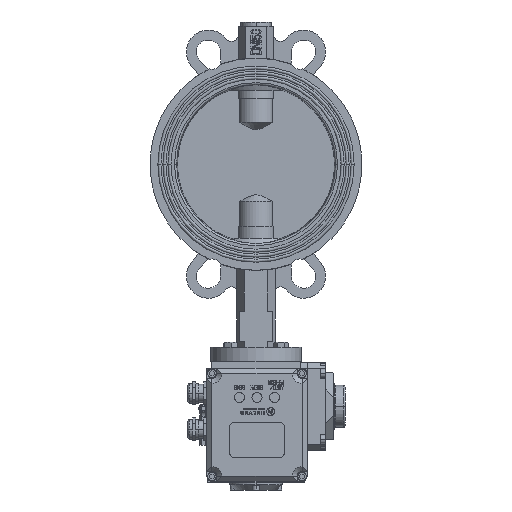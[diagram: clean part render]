
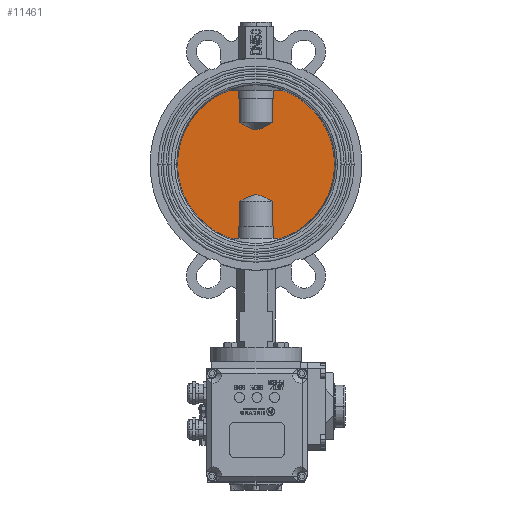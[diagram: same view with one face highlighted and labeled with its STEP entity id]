
A CAD part, front view. The second image highlights one B-rep face of the part: STEP entity #11461.
In plain terms, the highlighted planar face has unit normal (0, -1, 0) as drawn and (0, 1, 0) by its records, which use the part's own axes.
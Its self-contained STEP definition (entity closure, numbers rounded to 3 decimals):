
#10868=DIRECTION('',(0.,0.,-1.));
#10869=VECTOR('',#10868,8.);
#10870=CARTESIAN_POINT('',(17.321,6.5,-66.));
#10871=LINE('',#10870,#10869);
#10872=DIRECTION('',(1.,0.,0.));
#10873=VECTOR('',#10872,8.876);
#10874=CARTESIAN_POINT('',(17.321,6.5,-74.));
#10875=LINE('',#10874,#10873);
#10876=DIRECTION('',(-1.,0.,0.));
#10877=VECTOR('',#10876,8.876);
#10878=CARTESIAN_POINT('',(26.196,6.5,74.));
#10879=LINE('',#10878,#10877);
#10880=DIRECTION('',(0.,0.,-1.));
#10881=VECTOR('',#10880,12.);
#10882=CARTESIAN_POINT('',(17.321,6.5,74.));
#10883=LINE('',#10882,#10881);
#10884=DIRECTION('',(-1.,0.,0.));
#10885=VECTOR('',#10884,1.072);
#10886=CARTESIAN_POINT('',(17.321,6.5,62.));
#10887=LINE('',#10886,#10885);
#10888=DIRECTION('',(0.,0.,-1.));
#10889=VECTOR('',#10888,25.);
#10890=CARTESIAN_POINT('',(16.248,6.5,62.));
#10891=LINE('',#10890,#10889);
#10892=DIRECTION('',(0.,0.,-1.));
#10893=VECTOR('',#10892,25.);
#10894=CARTESIAN_POINT('',(-16.248,6.5,62.));
#10895=LINE('',#10894,#10893);
#10896=DIRECTION('',(-1.,0.,0.));
#10897=VECTOR('',#10896,1.072);
#10898=CARTESIAN_POINT('',(-16.248,6.5,62.));
#10899=LINE('',#10898,#10897);
#10900=DIRECTION('',(0.,0.,-1.));
#10901=VECTOR('',#10900,12.);
#10902=CARTESIAN_POINT('',(-17.321,6.5,74.));
#10903=LINE('',#10902,#10901);
#10904=DIRECTION('',(-1.,0.,0.));
#10905=VECTOR('',#10904,8.876);
#10906=CARTESIAN_POINT('',(-17.321,6.5,74.));
#10907=LINE('',#10906,#10905);
#10908=DIRECTION('',(1.,0.,0.));
#10909=VECTOR('',#10908,8.876);
#10910=CARTESIAN_POINT('',(-26.196,6.5,-74.));
#10911=LINE('',#10910,#10909);
#10912=DIRECTION('',(0.,0.,-1.));
#10913=VECTOR('',#10912,8.);
#10914=CARTESIAN_POINT('',(-17.321,6.5,-66.));
#10915=LINE('',#10914,#10913);
#10916=DIRECTION('',(-1.,0.,0.));
#10917=VECTOR('',#10916,0.535);
#10918=CARTESIAN_POINT('',(-16.785,6.5,-66.));
#10919=LINE('',#10918,#10917);
#10920=DIRECTION('',(0.,0.,-1.));
#10921=VECTOR('',#10920,24.);
#10922=CARTESIAN_POINT('',(-16.785,6.5,-42.));
#10923=LINE('',#10922,#10921);
#10924=DIRECTION('',(0.,0.,-1.));
#10925=VECTOR('',#10924,24.);
#10926=CARTESIAN_POINT('',(16.785,6.5,-42.));
#10927=LINE('',#10926,#10925);
#10928=DIRECTION('',(-1.,0.,0.));
#10929=VECTOR('',#10928,0.535);
#10930=CARTESIAN_POINT('',(17.321,6.5,-66.));
#10931=LINE('',#10930,#10929);
#10941=CARTESIAN_POINT('',(0.,6.5,0.));
#10942=DIRECTION('',(0.,1.,0.));
#10943=DIRECTION('',(0.334,0.,0.943));
#10944=AXIS2_PLACEMENT_3D('',#10941,#10942,#10943);
#10950=CARTESIAN_POINT('',(0.,6.5,0.));
#10951=DIRECTION('',(0.,1.,0.));
#10952=DIRECTION('',(-0.334,0.,-0.943));
#10953=AXIS2_PLACEMENT_3D('',#10950,#10951,#10952);
#11053=CARTESIAN_POINT('',(-16.248,6.5,37.));
#11054=CARTESIAN_POINT('',(-15.344,6.5,36.52));
#11055=CARTESIAN_POINT('',(-13.609,6.5,35.611));
#11056=CARTESIAN_POINT('',(-11.222,6.5,34.401));
#11057=CARTESIAN_POINT('',(-9.038,6.5,33.349));
#11058=CARTESIAN_POINT('',(-7.05,6.5,32.463));
#11059=CARTESIAN_POINT('',(-5.244,6.5,31.752));
#11060=CARTESIAN_POINT('',(-3.627,6.5,31.23));
#11061=CARTESIAN_POINT('',(-2.148,6.5,30.886));
#11062=CARTESIAN_POINT('',(-0.714,6.5,30.707));
#11063=CARTESIAN_POINT('',(0.715,6.5,30.707));
#11064=CARTESIAN_POINT('',(2.149,6.5,30.886));
#11065=CARTESIAN_POINT('',(3.628,6.5,31.231));
#11066=CARTESIAN_POINT('',(5.245,6.5,31.753));
#11067=CARTESIAN_POINT('',(7.051,6.5,32.463));
#11068=CARTESIAN_POINT('',(9.038,6.5,33.349));
#11069=CARTESIAN_POINT('',(11.222,6.5,34.401));
#11070=CARTESIAN_POINT('',(13.609,6.5,35.611));
#11071=CARTESIAN_POINT('',(15.344,6.5,36.521));
#11072=CARTESIAN_POINT('',(16.248,6.5,37.));
#11158=CARTESIAN_POINT('',(16.785,6.5,-42.));
#11159=CARTESIAN_POINT('',(15.851,6.5,-41.419));
#11160=CARTESIAN_POINT('',(14.058,6.5,-40.317));
#11161=CARTESIAN_POINT('',(11.595,6.5,-38.851));
#11162=CARTESIAN_POINT('',(9.342,6.5,-37.572));
#11163=CARTESIAN_POINT('',(7.287,6.5,-36.49));
#11164=CARTESIAN_POINT('',(5.416,6.5,-35.616));
#11165=CARTESIAN_POINT('',(3.729,6.5,-34.967));
#11166=CARTESIAN_POINT('',(2.195,6.5,-34.541));
#11167=CARTESIAN_POINT('',(0.726,6.5,-34.324));
#11168=CARTESIAN_POINT('',(-0.731,6.5,-34.325));
#11169=CARTESIAN_POINT('',(-2.2,6.5,-34.542));
#11170=CARTESIAN_POINT('',(-3.733,6.5,-34.969));
#11171=CARTESIAN_POINT('',(-5.419,6.5,-35.617));
#11172=CARTESIAN_POINT('',(-7.29,6.5,-36.492));
#11173=CARTESIAN_POINT('',(-9.344,6.5,-37.574));
#11174=CARTESIAN_POINT('',(-11.597,6.5,-38.852));
#11175=CARTESIAN_POINT('',(-14.059,6.5,-40.318));
#11176=CARTESIAN_POINT('',(-15.852,6.5,-41.419));
#11177=CARTESIAN_POINT('',(-16.785,6.5,-42.));
#11203=CARTESIAN_POINT('',(26.196,6.5,-74.));
#11205=VERTEX_POINT('',#11203);
#11207=CARTESIAN_POINT('',(-26.196,6.5,-74.));
#11209=VERTEX_POINT('',#11207);
#11211=CARTESIAN_POINT('',(-26.196,6.5,74.));
#11213=VERTEX_POINT('',#11211);
#11215=CARTESIAN_POINT('',(26.196,6.5,74.));
#11217=VERTEX_POINT('',#11215);
#11234=CARTESIAN_POINT('',(16.248,6.5,62.));
#11235=CARTESIAN_POINT('',(16.248,6.5,37.));
#11236=VERTEX_POINT('',#11234);
#11237=VERTEX_POINT('',#11235);
#11238=CARTESIAN_POINT('',(17.321,6.5,62.));
#11239=VERTEX_POINT('',#11238);
#11240=CARTESIAN_POINT('',(-16.248,6.5,62.));
#11241=CARTESIAN_POINT('',(-17.321,6.5,62.));
#11242=VERTEX_POINT('',#11240);
#11243=VERTEX_POINT('',#11241);
#11244=CARTESIAN_POINT('',(17.321,6.5,74.));
#11245=VERTEX_POINT('',#11244);
#11246=CARTESIAN_POINT('',(-16.248,6.5,37.));
#11247=VERTEX_POINT('',#11246);
#11248=CARTESIAN_POINT('',(-17.321,6.5,74.));
#11249=VERTEX_POINT('',#11248);
#11266=CARTESIAN_POINT('',(17.321,6.5,-66.));
#11267=CARTESIAN_POINT('',(17.321,6.5,-74.));
#11268=VERTEX_POINT('',#11266);
#11269=VERTEX_POINT('',#11267);
#11270=CARTESIAN_POINT('',(16.785,6.5,-66.));
#11271=VERTEX_POINT('',#11270);
#11272=CARTESIAN_POINT('',(-16.785,6.5,-66.));
#11273=CARTESIAN_POINT('',(-17.321,6.5,-66.));
#11274=VERTEX_POINT('',#11272);
#11275=VERTEX_POINT('',#11273);
#11276=CARTESIAN_POINT('',(16.785,6.5,-42.));
#11277=VERTEX_POINT('',#11276);
#11278=CARTESIAN_POINT('',(-17.321,6.5,-74.));
#11279=VERTEX_POINT('',#11278);
#11280=CARTESIAN_POINT('',(-16.785,6.5,-42.));
#11281=VERTEX_POINT('',#11280);
#11418=CARTESIAN_POINT('',(0.,6.5,0.));
#11419=DIRECTION('',(0.,1.,0.));
#11420=DIRECTION('',(1.,0.,0.));
#11421=AXIS2_PLACEMENT_3D('',#11418,#11419,#11420);
#11422=PLANE('',#11421);
#11423=ORIENTED_EDGE('',*,*,#11387,.T.);
#11424=ORIENTED_EDGE('',*,*,#11397,.T.);
#11426=ORIENTED_EDGE('',*,*,#11425,.F.);
#11428=ORIENTED_EDGE('',*,*,#11427,.T.);
#11430=ORIENTED_EDGE('',*,*,#11429,.T.);
#11432=ORIENTED_EDGE('',*,*,#11431,.T.);
#11434=ORIENTED_EDGE('',*,*,#11433,.T.);
#11436=ORIENTED_EDGE('',*,*,#11435,.F.);
#11438=ORIENTED_EDGE('',*,*,#11437,.F.);
#11440=ORIENTED_EDGE('',*,*,#11439,.T.);
#11442=ORIENTED_EDGE('',*,*,#11441,.F.);
#11444=ORIENTED_EDGE('',*,*,#11443,.T.);
#11446=ORIENTED_EDGE('',*,*,#11445,.F.);
#11447=ORIENTED_EDGE('',*,*,#11400,.T.);
#11448=ORIENTED_EDGE('',*,*,#11383,.F.);
#11450=ORIENTED_EDGE('',*,*,#11449,.F.);
#11452=ORIENTED_EDGE('',*,*,#11451,.F.);
#11454=ORIENTED_EDGE('',*,*,#11453,.F.);
#11456=ORIENTED_EDGE('',*,*,#11455,.T.);
#11458=ORIENTED_EDGE('',*,*,#11457,.F.);
#11459=EDGE_LOOP('',(#11423,#11424,#11426,#11428,#11430,#11432,#11434,#11436,
#11438,#11440,#11442,#11444,#11446,#11447,#11448,#11450,#11452,#11454,#11456,
#11458));
#11460=FACE_OUTER_BOUND('',#11459,.F.);
#11461=ADVANCED_FACE('',(#11460),#11422,.T.);
#10945=CIRCLE('',#10944,78.5);
#10954=CIRCLE('',#10953,78.5);
#11073=B_SPLINE_CURVE_WITH_KNOTS('',3,(#11053,#11054,#11055,#11056,#11057,
#11058,#11059,#11060,#11061,#11062,#11063,#11064,#11065,#11066,#11067,#11068,
#11069,#11070,#11071,#11072),.UNSPECIFIED.,.F.,.F.,(4,1,1,1,1,1,1,1,1,1,1,1,1,1,
1,1,1,4),(0.,0.059,0.118,0.176,
0.235,0.294,0.353,0.412,
0.471,0.529,0.588,0.647,
0.706,0.765,0.824,0.882,
0.941,1.),.UNSPECIFIED.);
#11178=B_SPLINE_CURVE_WITH_KNOTS('',3,(#11158,#11159,#11160,#11161,#11162,
#11163,#11164,#11165,#11166,#11167,#11168,#11169,#11170,#11171,#11172,#11173,
#11174,#11175,#11176,#11177),.UNSPECIFIED.,.F.,.F.,(4,1,1,1,1,1,1,1,1,1,1,1,1,1,
1,1,1,4),(0.,0.059,0.118,0.176,
0.235,0.294,0.353,0.412,
0.471,0.529,0.588,0.647,
0.706,0.765,0.824,0.882,
0.941,1.),.UNSPECIFIED.);
#11383=EDGE_CURVE('',#11275,#11279,#10915,.T.);
#11387=EDGE_CURVE('',#11268,#11269,#10871,.T.);
#11397=EDGE_CURVE('',#11269,#11205,#10875,.T.);
#11400=EDGE_CURVE('',#11209,#11279,#10911,.T.);
#11425=EDGE_CURVE('',#11217,#11205,#10945,.T.);
#11427=EDGE_CURVE('',#11217,#11245,#10879,.T.);
#11429=EDGE_CURVE('',#11245,#11239,#10883,.T.);
#11431=EDGE_CURVE('',#11239,#11236,#10887,.T.);
#11433=EDGE_CURVE('',#11236,#11237,#10891,.T.);
#11435=EDGE_CURVE('',#11247,#11237,#11073,.T.);
#11437=EDGE_CURVE('',#11242,#11247,#10895,.T.);
#11439=EDGE_CURVE('',#11242,#11243,#10899,.T.);
#11441=EDGE_CURVE('',#11249,#11243,#10903,.T.);
#11443=EDGE_CURVE('',#11249,#11213,#10907,.T.);
#11445=EDGE_CURVE('',#11209,#11213,#10954,.T.);
#11449=EDGE_CURVE('',#11274,#11275,#10919,.T.);
#11451=EDGE_CURVE('',#11281,#11274,#10923,.T.);
#11453=EDGE_CURVE('',#11277,#11281,#11178,.T.);
#11455=EDGE_CURVE('',#11277,#11271,#10927,.T.);
#11457=EDGE_CURVE('',#11268,#11271,#10931,.T.);
